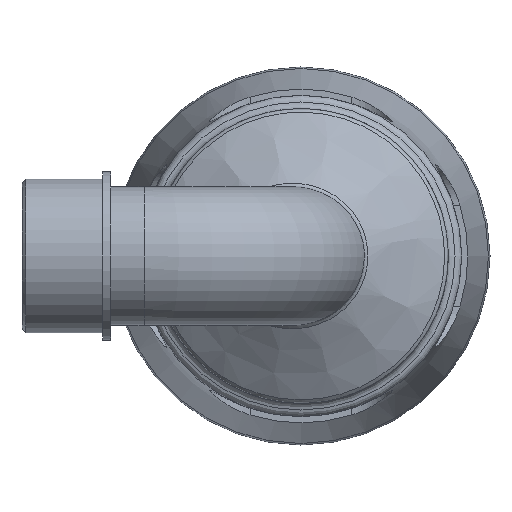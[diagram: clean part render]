
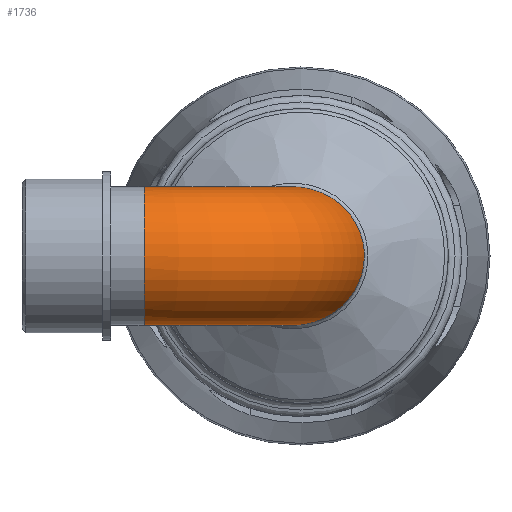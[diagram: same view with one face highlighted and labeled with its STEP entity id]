
A CAD part, left-side view. The second image highlights one B-rep face of the part: STEP entity #1736.
In plain terms, the highlighted toroidal (fillet/blend) face has major radius 42.752 mm and minor radius 18.86 mm.
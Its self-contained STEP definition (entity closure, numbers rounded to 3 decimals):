
#80=TOROIDAL_SURFACE('',#1855,42.753,18.86);
#90=FACE_BOUND('',#436,.T.);
#319=FACE_OUTER_BOUND('',#435,.T.);
#435=EDGE_LOOP('',(#1149));
#436=EDGE_LOOP('',(#1150));
#557=B_SPLINE_CURVE_WITH_KNOTS('',3,(#2622,#2623,#2624,#2625,#2626,#2627,
#2628,#2629,#2630,#2631,#2632,#2633,#2634,#2635,#2636,#2637,#2638,#2639),
 .UNSPECIFIED.,.T.,.F.,(4,1,1,1,1,1,1,1,1,1,1,1,1,1,1,4),(-3.142,
-2.693,-2.244,-1.795,-1.346,
-0.748,-0.449,-0.299,-0.15,
0.449,0.898,1.346,1.795,2.244,
2.693,3.142),.UNSPECIFIED.);
#631=CIRCLE('',#1850,18.86);
#721=VERTEX_POINT('',#2620);
#728=VERTEX_POINT('',#2888);
#882=EDGE_CURVE('',#721,#721,#557,.T.);
#892=EDGE_CURVE('',#728,#728,#631,.T.);
#1149=ORIENTED_EDGE('',*,*,#882,.F.);
#1150=ORIENTED_EDGE('',*,*,#892,.T.);
#1736=ADVANCED_FACE('',(#319,#90),#80,.T.);
#1850=AXIS2_PLACEMENT_3D('',#2889,#2066,#2067);
#1855=AXIS2_PLACEMENT_3D('',#2897,#2076,#2077);
#2066=DIRECTION('center_axis',(0.,-1.,0.));
#2067=DIRECTION('ref_axis',(-1.,0.,0.));
#2076=DIRECTION('center_axis',(0.,0.,1.));
#2077=DIRECTION('ref_axis',(1.,0.,0.));
#2620=CARTESIAN_POINT('',(28.331,23.703,0.));
#2622=CARTESIAN_POINT('Ctrl Pts',(28.332,23.707,0.));
#2623=CARTESIAN_POINT('Ctrl Pts',(28.332,23.707,2.905));
#2624=CARTESIAN_POINT('Ctrl Pts',(28.27,21.963,8.713));
#2625=CARTESIAN_POINT('Ctrl Pts',(28.221,15.64,15.263));
#2626=CARTESIAN_POINT('Ctrl Pts',(28.328,7.347,18.912));
#2627=CARTESIAN_POINT('Ctrl Pts',(28.517,-2.691,19.127));
#2628=CARTESIAN_POINT('Ctrl Pts',(28.664,-10.828,14.923));
#2629=CARTESIAN_POINT('Ctrl Pts',(28.73,-14.901,9.345));
#2630=CARTESIAN_POINT('Ctrl Pts',(28.754,-16.404,5.754));
#2631=CARTESIAN_POINT('Ctrl Pts',(28.776,-17.802,0.071));
#2632=CARTESIAN_POINT('Ctrl Pts',(28.757,-16.497,-7.98));
#2633=CARTESIAN_POINT('Ctrl Pts',(28.649,-9.953,-15.547));
#2634=CARTESIAN_POINT('Ctrl Pts',(28.497,-1.687,-19.095));
#2635=CARTESIAN_POINT('Ctrl Pts',(28.328,7.346,-18.917));
#2636=CARTESIAN_POINT('Ctrl Pts',(28.221,15.64,-15.26));
#2637=CARTESIAN_POINT('Ctrl Pts',(28.27,21.963,-8.715));
#2638=CARTESIAN_POINT('Ctrl Pts',(28.332,23.707,-2.905));
#2639=CARTESIAN_POINT('Ctrl Pts',(28.332,23.707,0.));
#2888=CARTESIAN_POINT('',(18.86,42.753,0.));
#2889=CARTESIAN_POINT('Origin',(0.,42.753,0.));
#2897=CARTESIAN_POINT('Origin',(42.753,42.753,0.));
